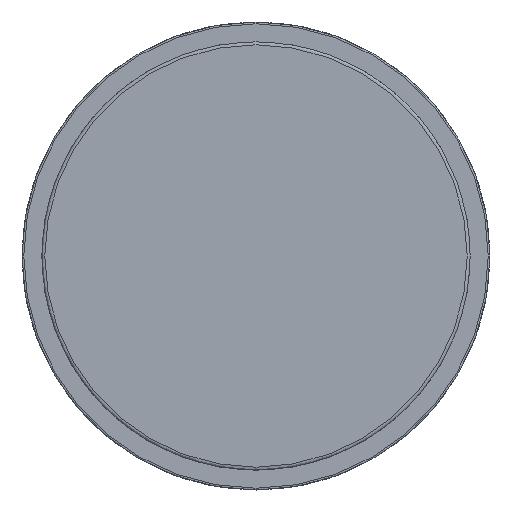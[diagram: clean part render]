
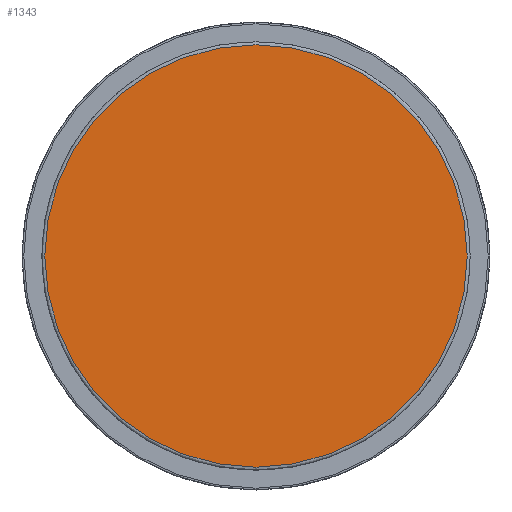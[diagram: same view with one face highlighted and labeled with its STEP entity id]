
A CAD part, left-side view. The second image highlights one B-rep face of the part: STEP entity #1343.
In plain terms, the highlighted planar face has unit normal (-1, 0, 0).
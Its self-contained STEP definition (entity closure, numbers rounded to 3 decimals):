
#1318=CARTESIAN_POINT('',(-528.136,-400.809,-87.3));
#1319=DIRECTION('',(-1.0,0.0,0.0));
#1320=DIRECTION('',(0.0,-1.0,0.0));
#1321=AXIS2_PLACEMENT_3D('',#1318,#1319,#1320);
#1322=PLANE('',#1321);
#1323=CARTESIAN_POINT('',(-528.136,-559.859,0.0));
#1324=VERTEX_POINT('',#1323);
#1325=CARTESIAN_POINT('',(-528.136,-416.359,0.0));
#1326=VERTEX_POINT('',#1325);
#1327=CARTESIAN_POINT('',(-528.136,-488.109,0.0));
#1328=DIRECTION('',(-1.0,0.0,0.0));
#1329=DIRECTION('',(0.0,-1.0,0.0));
#1330=AXIS2_PLACEMENT_3D('',#1327,#1328,#1329);
#1331=CIRCLE('',#1330,71.75);
#1332=EDGE_CURVE('',#1324,#1326,#1331,.T.);
#1333=ORIENTED_EDGE('',*,*,#1332,.T.);
#1334=CARTESIAN_POINT('',(-528.136,-488.109,0.0));
#1335=DIRECTION('',(-1.0,0.0,0.0));
#1336=DIRECTION('',(0.0,-1.0,0.0));
#1337=AXIS2_PLACEMENT_3D('',#1334,#1335,#1336);
#1338=CIRCLE('',#1337,71.75);
#1339=EDGE_CURVE('',#1326,#1324,#1338,.T.);
#1340=ORIENTED_EDGE('',*,*,#1339,.T.);
#1341=EDGE_LOOP('',(#1333,#1340));
#1342=FACE_OUTER_BOUND('',#1341,.T.);
#1343=ADVANCED_FACE('',(#1342),#1322,.T.);
